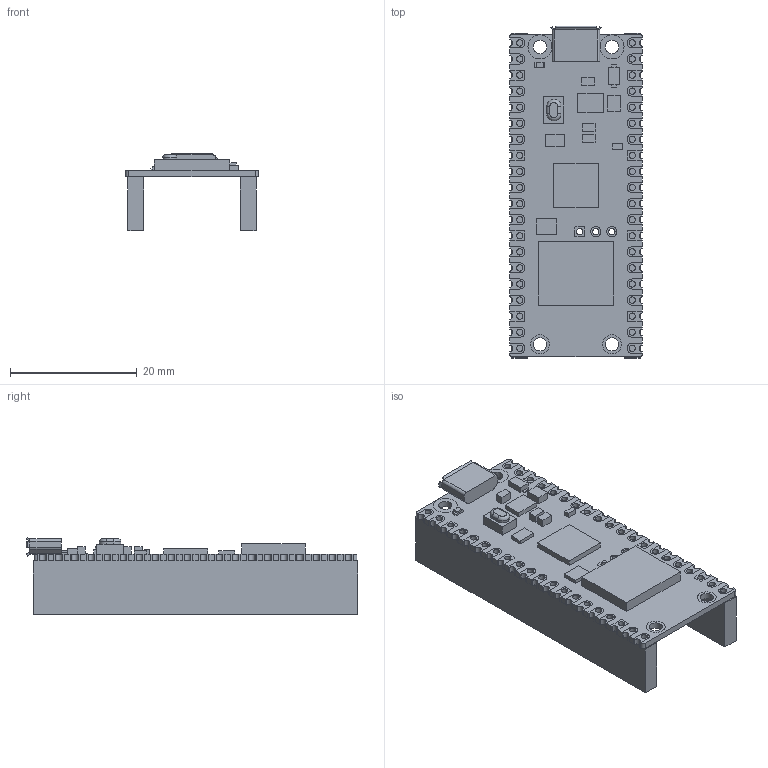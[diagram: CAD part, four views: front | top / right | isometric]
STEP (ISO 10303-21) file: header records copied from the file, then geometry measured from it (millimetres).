
FILE_DESCRIPTION(('FreeCAD Model'),'2;1');
FILE_NAME('Open CASCADE Shape Model','2026-04-27T17:57:27',(''),(''), 'Open CASCADE STEP processor 7.8','FreeCAD','Unknown');
FILE_SCHEMA(('AUTOMOTIVE_DESIGN { 1 0 10303 214 1 1 1 1 }'));
Length unit declared in the file: millimetre
Products named in the file (5): Unnamed; Body001; Clone; RaspberryPi_Pico_W_KiCad; RaspberryPi_Pico_W_Module_KiCad
Assembly tree (5 placements, depth 3):
  Unnamed
    Body001
    Clone  x2
    RaspberryPi_Pico_W_KiCad
      RaspberryPi_Pico_W_Module_KiCad
Bounding box: 21 x 52.45 x 12.2 mm (x, y, z)
Volume: 4623.7 mm3; surface area: 6234.9 mm2
Topology: 4 solids, 4 shells, 489 faces, 1447 edges, 1004 vertices
Faces by surface type: plane 368, cylinder 119, torus 2
Full cylindrical faces by diameter (mm): 1 x43, 2.1 x4
Entity records: 19985 total; most frequent: CARTESIAN_POINT 2920, ORIENTED_EDGE 2870, DIRECTION 2801, EDGE_CURVE 1435, LINE 1047, VECTOR 1047, VERTEX_POINT 996, AXIS2_PLACEMENT_3D 877
